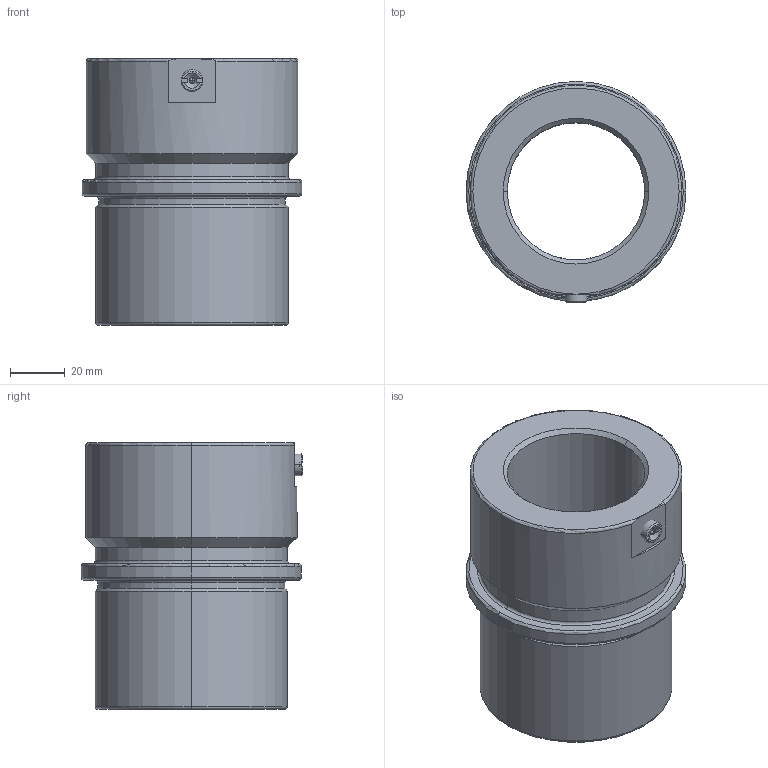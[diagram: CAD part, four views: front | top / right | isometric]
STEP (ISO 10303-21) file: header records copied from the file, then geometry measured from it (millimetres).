
FILE_DESCRIPTION(('CATIA V5 STEP Exchange'),'2;1');
FILE_NAME('C:\Users\Utente\Desktop\IO LAVORO\3D X SITO CF\X SITO\744\744-50.stp','2020-12-23T21:09:59+00:00',('none'),('none'),'CATIA Version 5 Release 20 GA (IN-10)','CATIA V5 STEP AP203','none');
FILE_SCHEMA(('CONFIG_CONTROL_DESIGN'));
Length unit declared in the file: millimetre
Products named in the file (1): 744-50
Bounding box: 80 x 80.5 x 97 mm (x, y, z)
Volume: 217757.3 mm3; surface area: 44787.2 mm2
Topology: 2 solids, 2 shells, 67 faces, 155 edges, 91 vertices
Faces by surface type: cylinder 16, plane 16, cone 16, torus 15, sphere 4
Entity records: 2027 total; most frequent: CARTESIAN_POINT 534, ORIENTED_EDGE 302, DIRECTION 266, AXIS2_PLACEMENT_3D 155, EDGE_CURVE 151, VERTEX_POINT 91, CIRCLE 87, EDGE_LOOP 74
